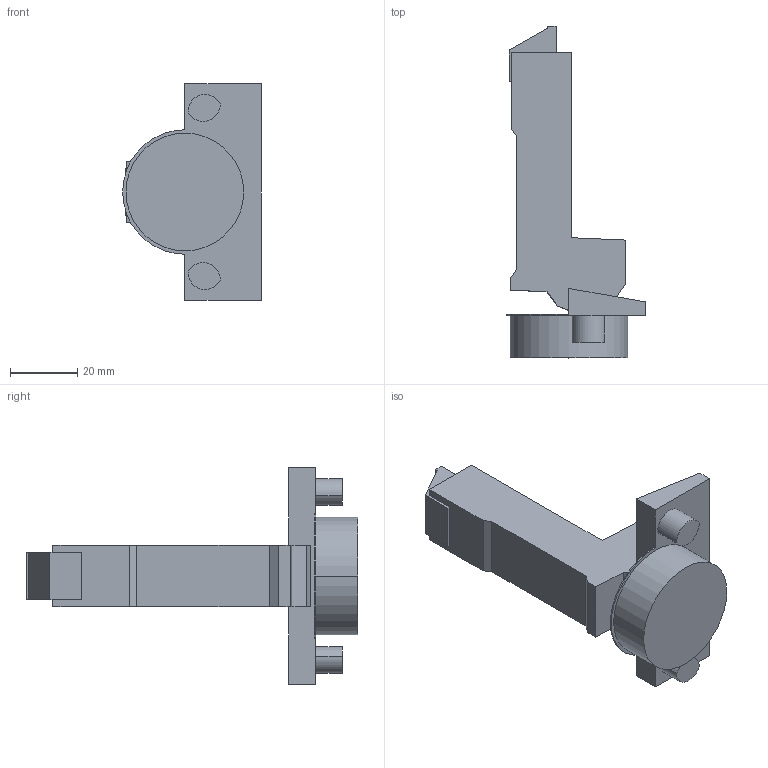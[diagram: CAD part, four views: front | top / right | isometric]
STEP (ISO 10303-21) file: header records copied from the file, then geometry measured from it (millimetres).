
FILE_DESCRIPTION (( 'STEP AP214' ), '1' );
FILE_NAME ('Scharnier TT Impresso 95° HS_BB, K19.step', '2018-10-02T12:12:32', ( '' ), ( '' ), 'SwSTEP 2.0', 'SolidWorks 2017', '' );
FILE_SCHEMA (( 'AUTOMOTIVE_DESIGN' ));
Length unit declared in the file: millimetre
Products named in the file (1): Scharnier TT Impresso 95° HS_BB, K19
Bounding box: 41.25 x 98.7 x 64.5 mm (x, y, z)
Volume: 50027.1 mm3; surface area: 13511.7 mm2
Topology: 1 solids, 1 shells, 55 faces, 141 edges, 94 vertices
Faces by surface type: plane 39, cylinder 16
Entity records: 1701 total; most frequent: CARTESIAN_POINT 291, DIRECTION 285, ORIENTED_EDGE 282, EDGE_CURVE 141, LINE 109, VECTOR 109, VERTEX_POINT 94, AXIS2_PLACEMENT_3D 88
